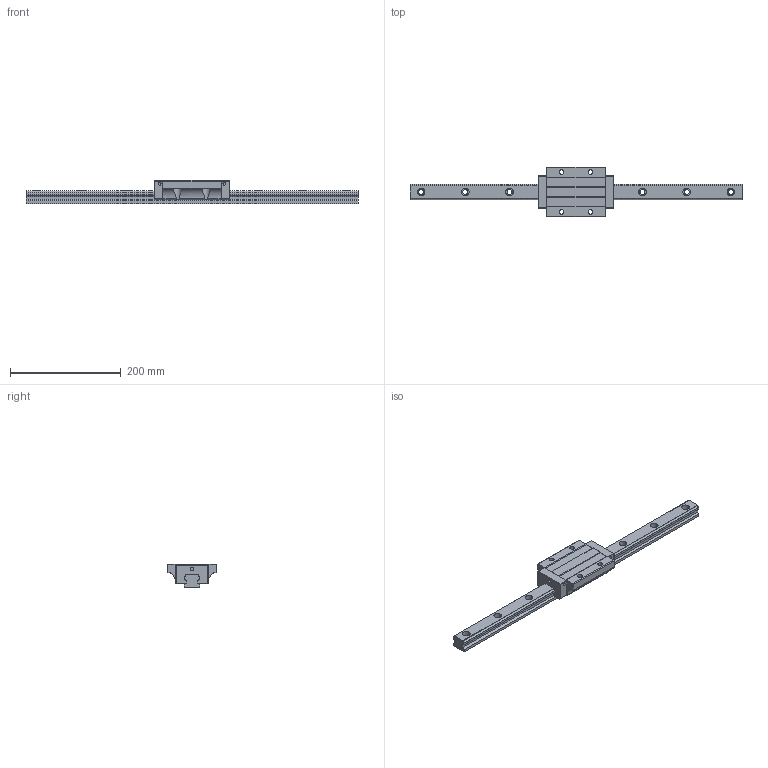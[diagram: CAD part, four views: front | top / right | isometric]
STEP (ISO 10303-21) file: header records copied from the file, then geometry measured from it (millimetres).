
FILE_DESCRIPTION (( 'STEP AP203' ), '1' );
FILE_NAME ('TRH30FE-SU.STEP', '2024-06-26T03:56:12', ( '' ), ( '' ), 'SwSTEP 2.0', 'SolidWorks 2022', '' );
FILE_SCHEMA (( 'CONFIG_CONTROL_DESIGN' ));
Length unit declared in the file: millimetre
Products named in the file (1): TRH30FE-SU
Bounding box: 600 x 90 x 42 mm (x, y, z)
Volume: 587400.6 mm3; surface area: 112471.1 mm2
Topology: 2 solids, 2 shells, 214 faces, 580 edges, 380 vertices
Faces by surface type: cylinder 116, plane 94, sphere 4
Entity records: 7501 total; most frequent: CARTESIAN_POINT 1865, DIRECTION 1184, ORIENTED_EDGE 1152, EDGE_CURVE 576, AXIS2_PLACEMENT_3D 421, VERTEX_POINT 380, VECTOR 342, LINE 342
